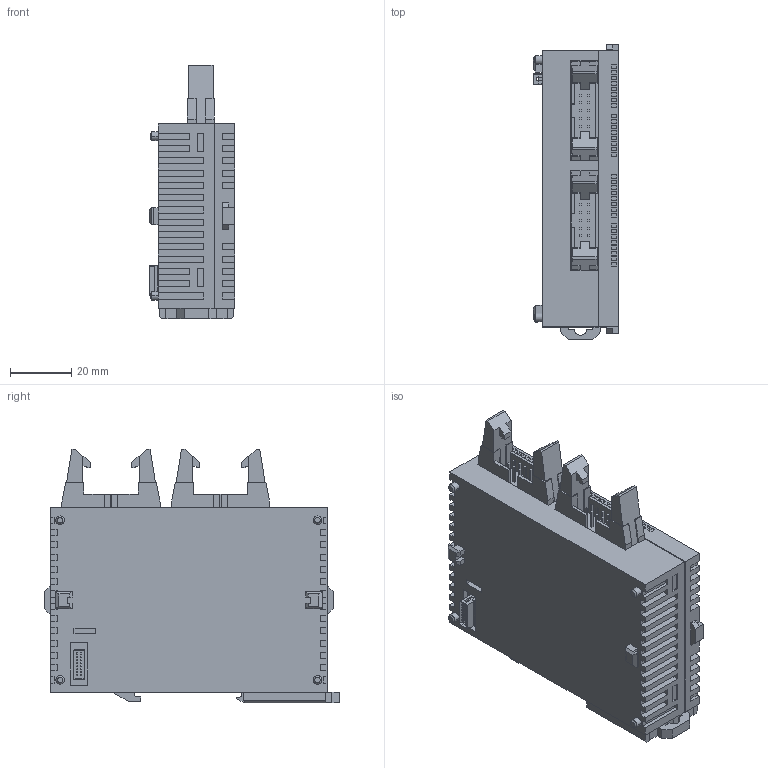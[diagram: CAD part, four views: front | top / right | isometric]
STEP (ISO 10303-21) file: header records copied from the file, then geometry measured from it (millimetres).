
FILE_DESCRIPTION (( 'STEP AP203' ), '1' );
FILE_NAME ('afp0re16t.STEP', '2013-06-28T05:59:41', ( 'sunx' ), ( 'sunx' ), 'SwSTEP 2.0', 'SolidWorks 2010', '' );
FILE_SCHEMA (( 'CONFIG_CONTROL_DESIGN' ));
Length unit declared in the file: millimetre
Products named in the file (1): afp0re16t
Bounding box: 28 x 96.05 x 82.7 mm (x, y, z)
Volume: 137798.6 mm3; surface area: 28392.9 mm2
Topology: 1 solids, 1 shells, 946 faces, 2527 edges, 1672 vertices
Faces by surface type: plane 889, cylinder 33, bspline 16, cone 8
Entity records: 29154 total; most frequent: CARTESIAN_POINT 5386, ORIENTED_EDGE 5054, DIRECTION 4471, EDGE_CURVE 2527, LINE 2445, VECTOR 2445, VERTEX_POINT 1672, EDGE_LOOP 1043
